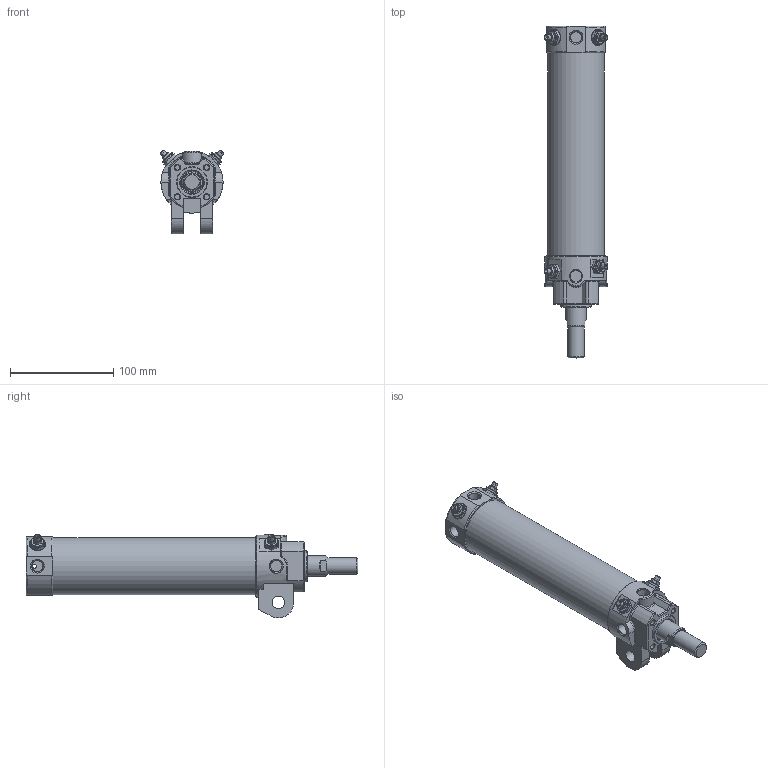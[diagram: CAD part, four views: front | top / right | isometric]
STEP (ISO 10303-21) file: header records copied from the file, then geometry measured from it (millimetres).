
FILE_DESCRIPTION((''),'2;1');
FILE_NAME('I:\3D電子目錄\氣缸\DCK\DCK\DCK-1A-50x150.stp','2008-02-26T14:13:29',('Administrator'),(''),'Autodesk Inventor 11','Autodesk Inventor 11','');
FILE_SCHEMA(('AUTOMOTIVE_DESIGN { 1 0 10303 214 1 1 1 1 }'));
Length unit declared in the file: millimetre
Products named in the file (6): DCK-1A-50; 緩衝針; 緩衝針-1; 緩衝針-201; 緩衝針-3
Assembly tree (8 placements, depth 3):
  DCK-1A-50
    DCK-1A-50
    緩衝針  x4
      緩衝針-1
      緩衝針-201
      緩衝針-3
Bounding box: 61.76 x 321 x 80.87 mm (x, y, z)
Volume: 257679.3 mm3; surface area: 127159.3 mm2
Topology: 15 solids, 15 shells, 570 faces, 1270 edges, 794 vertices
Faces by surface type: plane 213, cylinder 168, cone 133, torus 30, bspline 26
Full cylindrical faces by diameter (mm): 2 x2, 3 x4, 3.8 x2, 4 x6, 4.6 x4, 5 x8, 5.1 x4, 5.2 x12, 5.5 x4, 7.25 x1, 7.9 x4, 8 x2, 10.3 x1, 11.3 x1, 12 x4, 12.8 x4, 16 x2, 20 x1, 21 x1, 22 x2, 23 x1, 24.7 x1, 26 x1, 27 x1, 28 x1, 29 x1, 30 x1, 33 x1, 49.5 x1, 52 x2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
Entity records: 11478 total; most frequent: CARTESIAN_POINT 4706, DIRECTION 1374, ORIENTED_EDGE 1222, EDGE_CURVE 611, AXIS2_PLACEMENT_3D 598, EDGE_LOOP 497, VERTEX_POINT 444, FACE_OUTER_BOUND 321
